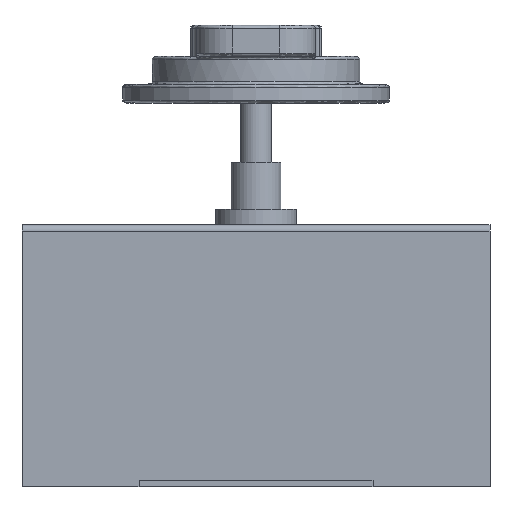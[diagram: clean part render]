
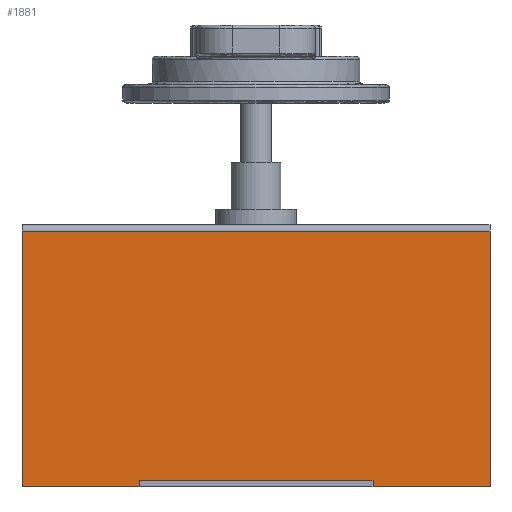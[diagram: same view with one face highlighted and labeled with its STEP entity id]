
A CAD part, front view. The second image highlights one B-rep face of the part: STEP entity #1881.
In plain terms, the highlighted planar face has unit normal (0, -1, 0).
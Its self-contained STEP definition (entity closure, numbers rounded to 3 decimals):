
#97=PLANE('',#2018);
#158=LINE('',#2706,#313);
#170=LINE('',#2743,#325);
#171=LINE('',#2746,#326);
#173=LINE('',#2750,#328);
#175=LINE('',#2754,#330);
#177=LINE('',#2758,#332);
#182=LINE('',#2770,#337);
#191=LINE('',#2789,#346);
#192=LINE('',#2791,#347);
#193=LINE('',#2792,#348);
#194=LINE('',#2794,#349);
#195=LINE('',#2796,#350);
#196=LINE('',#2797,#351);
#197=LINE('',#2799,#352);
#198=LINE('',#2801,#353);
#199=LINE('',#2802,#354);
#313=VECTOR('',#2191,10.);
#325=VECTOR('',#2227,10.);
#326=VECTOR('',#2230,10.);
#328=VECTOR('',#2232,10.);
#330=VECTOR('',#2234,10.);
#332=VECTOR('',#2236,10.);
#337=VECTOR('',#2249,10.);
#346=VECTOR('',#2264,10.);
#347=VECTOR('',#2265,10.);
#348=VECTOR('',#2266,10.);
#349=VECTOR('',#2267,10.);
#350=VECTOR('',#2268,10.);
#351=VECTOR('',#2269,10.);
#352=VECTOR('',#2270,10.);
#353=VECTOR('',#2271,10.);
#354=VECTOR('',#2272,10.);
#500=FACE_OUTER_BOUND('',#619,.T.);
#619=EDGE_LOOP('',(#1364,#1365,#1366,#1367,#1368,#1369,#1370,#1371,#1372,
#1373,#1374,#1375,#1376,#1377,#1378,#1379));
#831=VERTEX_POINT('',#2703);
#832=VERTEX_POINT('',#2705);
#845=VERTEX_POINT('',#2741);
#846=VERTEX_POINT('',#2745);
#847=VERTEX_POINT('',#2747);
#848=VERTEX_POINT('',#2749);
#849=VERTEX_POINT('',#2751);
#850=VERTEX_POINT('',#2753);
#851=VERTEX_POINT('',#2755);
#852=VERTEX_POINT('',#2757);
#862=VERTEX_POINT('',#2788);
#863=VERTEX_POINT('',#2790);
#864=VERTEX_POINT('',#2793);
#865=VERTEX_POINT('',#2795);
#866=VERTEX_POINT('',#2798);
#867=VERTEX_POINT('',#2800);
#1014=EDGE_CURVE('',#832,#831,#158,.T.);
#1033=EDGE_CURVE('',#845,#831,#170,.T.);
#1034=EDGE_CURVE('',#846,#832,#171,.T.);
#1036=EDGE_CURVE('',#848,#847,#173,.T.);
#1038=EDGE_CURVE('',#850,#849,#175,.T.);
#1040=EDGE_CURVE('',#852,#851,#177,.T.);
#1047=EDGE_CURVE('',#852,#845,#182,.T.);
#1056=EDGE_CURVE('',#862,#851,#191,.T.);
#1057=EDGE_CURVE('',#863,#862,#192,.T.);
#1058=EDGE_CURVE('',#850,#863,#193,.T.);
#1059=EDGE_CURVE('',#864,#849,#194,.T.);
#1060=EDGE_CURVE('',#865,#864,#195,.T.);
#1061=EDGE_CURVE('',#848,#865,#196,.T.);
#1062=EDGE_CURVE('',#866,#847,#197,.T.);
#1063=EDGE_CURVE('',#867,#866,#198,.T.);
#1064=EDGE_CURVE('',#846,#867,#199,.T.);
#1364=ORIENTED_EDGE('',*,*,#1033,.F.);
#1365=ORIENTED_EDGE('',*,*,#1047,.F.);
#1366=ORIENTED_EDGE('',*,*,#1040,.T.);
#1367=ORIENTED_EDGE('',*,*,#1056,.F.);
#1368=ORIENTED_EDGE('',*,*,#1057,.F.);
#1369=ORIENTED_EDGE('',*,*,#1058,.F.);
#1370=ORIENTED_EDGE('',*,*,#1038,.T.);
#1371=ORIENTED_EDGE('',*,*,#1059,.F.);
#1372=ORIENTED_EDGE('',*,*,#1060,.F.);
#1373=ORIENTED_EDGE('',*,*,#1061,.F.);
#1374=ORIENTED_EDGE('',*,*,#1036,.T.);
#1375=ORIENTED_EDGE('',*,*,#1062,.F.);
#1376=ORIENTED_EDGE('',*,*,#1063,.F.);
#1377=ORIENTED_EDGE('',*,*,#1064,.F.);
#1378=ORIENTED_EDGE('',*,*,#1034,.T.);
#1379=ORIENTED_EDGE('',*,*,#1014,.T.);
#1881=ADVANCED_FACE('',(#500),#97,.F.);
#2018=AXIS2_PLACEMENT_3D('',#2787,#2262,#2263);
#2191=DIRECTION('',(0.,0.,1.));
#2227=DIRECTION('',(1.,0.,0.));
#2230=DIRECTION('',(1.,0.,0.));
#2232=DIRECTION('',(1.,0.,0.));
#2234=DIRECTION('',(1.,0.,0.));
#2236=DIRECTION('',(1.,0.,0.));
#2249=DIRECTION('',(0.,0.,1.));
#2262=DIRECTION('center_axis',(0.,1.,0.));
#2263=DIRECTION('ref_axis',(-1.,0.,0.));
#2264=DIRECTION('',(0.,0.,-1.));
#2265=DIRECTION('',(-1.,0.,0.));
#2266=DIRECTION('',(0.,0.,1.));
#2267=DIRECTION('',(0.,0.,-1.));
#2268=DIRECTION('',(-1.,0.,0.));
#2269=DIRECTION('',(0.,0.,1.));
#2270=DIRECTION('',(0.,0.,-1.));
#2271=DIRECTION('',(-1.,0.,0.));
#2272=DIRECTION('',(0.,0.,1.));
#2703=CARTESIAN_POINT('',(75.,-89.75,82.));
#2705=CARTESIAN_POINT('',(75.,-89.75,0.));
#2706=CARTESIAN_POINT('',(75.,-89.75,0.));
#2741=CARTESIAN_POINT('',(-75.,-89.75,82.));
#2743=CARTESIAN_POINT('',(37.5,-89.75,82.));
#2745=CARTESIAN_POINT('',(37.5,-89.75,0.));
#2746=CARTESIAN_POINT('',(-75.,-89.75,0.));
#2747=CARTESIAN_POINT('',(20.75,-89.75,0.));
#2749=CARTESIAN_POINT('',(16.75,-89.75,0.));
#2750=CARTESIAN_POINT('',(-75.,-89.75,0.));
#2751=CARTESIAN_POINT('',(-16.75,-89.75,0.));
#2753=CARTESIAN_POINT('',(-20.75,-89.75,0.));
#2754=CARTESIAN_POINT('',(-75.,-89.75,0.));
#2755=CARTESIAN_POINT('',(-37.5,-89.75,0.));
#2757=CARTESIAN_POINT('',(-75.,-89.75,0.));
#2758=CARTESIAN_POINT('',(-75.,-89.75,0.));
#2770=CARTESIAN_POINT('',(-75.,-89.75,0.));
#2787=CARTESIAN_POINT('Origin',(75.,-89.75,0.));
#2788=CARTESIAN_POINT('',(-37.5,-89.75,2.));
#2789=CARTESIAN_POINT('',(-37.5,-89.75,0.));
#2790=CARTESIAN_POINT('',(-20.75,-89.75,2.));
#2791=CARTESIAN_POINT('',(37.5,-89.75,2.));
#2792=CARTESIAN_POINT('',(-20.75,-89.75,0.));
#2793=CARTESIAN_POINT('',(-16.75,-89.75,2.));
#2794=CARTESIAN_POINT('',(-16.75,-89.75,0.));
#2795=CARTESIAN_POINT('',(16.75,-89.75,2.));
#2796=CARTESIAN_POINT('',(37.5,-89.75,2.));
#2797=CARTESIAN_POINT('',(16.75,-89.75,0.));
#2798=CARTESIAN_POINT('',(20.75,-89.75,2.));
#2799=CARTESIAN_POINT('',(20.75,-89.75,0.));
#2800=CARTESIAN_POINT('',(37.5,-89.75,2.));
#2801=CARTESIAN_POINT('',(37.5,-89.75,2.));
#2802=CARTESIAN_POINT('',(37.5,-89.75,0.));
